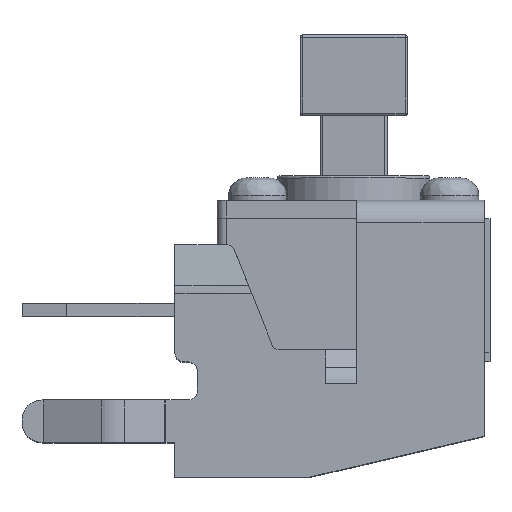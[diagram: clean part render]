
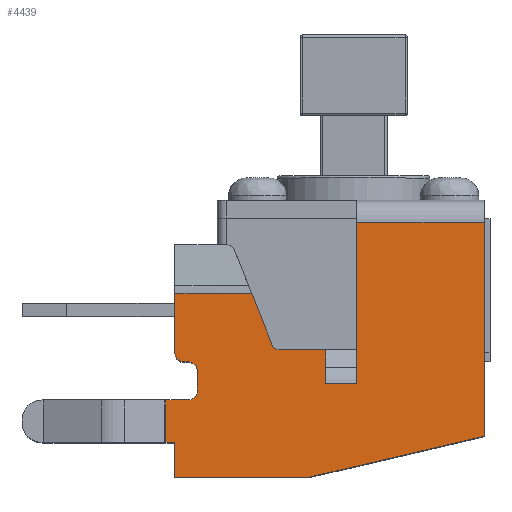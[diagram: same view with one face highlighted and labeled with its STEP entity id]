
A CAD part, top view. The second image highlights one B-rep face of the part: STEP entity #4439.
In plain terms, the highlighted planar face has unit normal (0, 0, 1).
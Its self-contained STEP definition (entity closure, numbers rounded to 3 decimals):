
#61=DIRECTION('',(-1.,0.,0.));
#62=VECTOR('',#61,2.85);
#63=CARTESIAN_POINT('',(2.92,3.1,3.75));
#64=LINE('',#63,#62);
#103=DIRECTION('',(0.,1.,0.));
#104=VECTOR('',#103,4.78);
#105=CARTESIAN_POINT('',(2.92,-1.68,3.75));
#106=LINE('',#105,#104);
#320=DIRECTION('',(0.,-1.,0.));
#321=VECTOR('',#320,3.6);
#322=CARTESIAN_POINT('',(0.07,3.1,3.75));
#323=LINE('',#322,#321);
#341=DIRECTION('',(-1.,0.,0.));
#342=VECTOR('',#341,0.7);
#343=CARTESIAN_POINT('',(0.07,-0.5,3.75));
#344=LINE('',#343,#342);
#349=DIRECTION('',(-0.974,-0.228,0.));
#350=VECTOR('',#349,4.027);
#351=CARTESIAN_POINT('',(2.92,-1.68,3.75));
#352=LINE('',#351,#350);
#353=DIRECTION('',(1.,0.,0.));
#354=VECTOR('',#353,0.5);
#355=CARTESIAN_POINT('',(-4.2,-0.87,3.75));
#356=LINE('',#355,#354);
#357=CARTESIAN_POINT('',(-3.7,-0.67,3.75));
#358=DIRECTION('',(0.,0.,1.));
#359=DIRECTION('',(0.,-1.,0.));
#360=AXIS2_PLACEMENT_3D('',#357,#358,#359);
#362=DIRECTION('',(0.,1.,0.));
#363=VECTOR('',#362,0.45);
#364=CARTESIAN_POINT('',(-3.5,-0.67,3.75));
#365=LINE('',#364,#363);
#366=CARTESIAN_POINT('',(-3.7,-0.22,3.75));
#367=DIRECTION('',(0.,0.,1.));
#368=DIRECTION('',(1.,0.,0.));
#369=AXIS2_PLACEMENT_3D('',#366,#367,#368);
#371=DIRECTION('',(-1.,0.,0.));
#372=VECTOR('',#371,0.1);
#373=CARTESIAN_POINT('',(-3.7,-0.02,3.75));
#374=LINE('',#373,#372);
#375=CARTESIAN_POINT('',(-3.8,0.18,3.75));
#376=DIRECTION('',(0.,0.,-1.));
#377=DIRECTION('',(0.,-1.,0.));
#378=AXIS2_PLACEMENT_3D('',#375,#376,#377);
#380=DIRECTION('',(0.371,-0.929,0.));
#381=VECTOR('',#380,1.239);
#382=CARTESIAN_POINT('',(-2.279,1.507,3.75));
#383=LINE('',#382,#381);
#384=CARTESIAN_POINT('',(-1.662,0.42,3.75));
#385=DIRECTION('',(0.,0.,1.));
#386=DIRECTION('',(-0.929,-0.371,0.));
#387=AXIS2_PLACEMENT_3D('',#384,#385,#386);
#398=DIRECTION('',(0.,1.,0.));
#399=VECTOR('',#398,0.75);
#400=CARTESIAN_POINT('',(-0.63,-0.5,3.75));
#401=LINE('',#400,#399);
#406=DIRECTION('',(-1.,0.,0.));
#407=VECTOR('',#406,1.032);
#408=CARTESIAN_POINT('',(-0.63,0.25,3.75));
#409=LINE('',#408,#407);
#463=DIRECTION('',(-1.,0.,0.));
#464=VECTOR('',#463,1.721);
#465=CARTESIAN_POINT('',(-2.279,1.507,3.75));
#466=LINE('',#465,#464);
#497=DIRECTION('',(0.,-1.,0.));
#498=VECTOR('',#497,1.327);
#499=CARTESIAN_POINT('',(-4.,1.507,3.75));
#500=LINE('',#499,#498);
#732=DIRECTION('',(0.,-1.,0.));
#733=VECTOR('',#732,0.95);
#734=CARTESIAN_POINT('',(-4.2,-0.87,3.75));
#735=LINE('',#734,#733);
#763=DIRECTION('',(1.,0.,0.));
#764=VECTOR('',#763,0.2);
#765=CARTESIAN_POINT('',(-4.2,-1.82,3.75));
#766=LINE('',#765,#764);
#860=DIRECTION('',(0.,-1.,0.));
#861=VECTOR('',#860,0.78);
#862=CARTESIAN_POINT('',(-4.,-1.82,3.75));
#863=LINE('',#862,#861);
#868=DIRECTION('',(1.,0.,0.));
#869=VECTOR('',#868,3.);
#870=CARTESIAN_POINT('',(-4.,-2.6,3.75));
#871=LINE('',#870,#869);
#3324=CARTESIAN_POINT('',(-3.7,-0.87,3.75));
#3326=VERTEX_POINT('',#3324);
#3328=CARTESIAN_POINT('',(-4.2,-0.87,3.75));
#3330=VERTEX_POINT('',#3328);
#3340=CARTESIAN_POINT('',(-3.5,-0.22,3.75));
#3342=VERTEX_POINT('',#3340);
#3345=CARTESIAN_POINT('',(-3.5,-0.67,3.75));
#3347=VERTEX_POINT('',#3345);
#3348=CARTESIAN_POINT('',(-3.7,-0.02,3.75));
#3349=VERTEX_POINT('',#3348);
#3352=CARTESIAN_POINT('',(-3.8,-0.02,3.75));
#3354=VERTEX_POINT('',#3352);
#3356=CARTESIAN_POINT('',(-0.63,-0.5,3.75));
#3357=CARTESIAN_POINT('',(-0.63,0.25,3.75));
#3358=VERTEX_POINT('',#3356);
#3359=VERTEX_POINT('',#3357);
#3360=CARTESIAN_POINT('',(0.07,-0.5,3.75));
#3361=VERTEX_POINT('',#3360);
#3362=CARTESIAN_POINT('',(2.92,3.1,3.75));
#3363=CARTESIAN_POINT('',(0.07,3.1,3.75));
#3364=VERTEX_POINT('',#3362);
#3365=VERTEX_POINT('',#3363);
#3366=CARTESIAN_POINT('',(2.92,-1.68,3.75));
#3367=CARTESIAN_POINT('',(-1.,-2.6,3.75));
#3368=VERTEX_POINT('',#3366);
#3369=VERTEX_POINT('',#3367);
#3370=CARTESIAN_POINT('',(-4.,-2.6,3.75));
#3371=VERTEX_POINT('',#3370);
#3372=CARTESIAN_POINT('',(-4.,-1.82,3.75));
#3373=VERTEX_POINT('',#3372);
#3374=CARTESIAN_POINT('',(-4.2,-1.82,3.75));
#3375=VERTEX_POINT('',#3374);
#3376=CARTESIAN_POINT('',(-4.,0.18,3.75));
#3377=VERTEX_POINT('',#3376);
#3378=CARTESIAN_POINT('',(-4.,1.507,3.75));
#3379=VERTEX_POINT('',#3378);
#3380=CARTESIAN_POINT('',(-1.82,0.357,3.75));
#3381=CARTESIAN_POINT('',(-1.662,0.25,3.75));
#3382=VERTEX_POINT('',#3380);
#3383=VERTEX_POINT('',#3381);
#3436=CARTESIAN_POINT('',(-2.279,1.507,3.75));
#3437=VERTEX_POINT('',#3436);
#4394=CARTESIAN_POINT('',(-0.64,0.25,3.75));
#4395=DIRECTION('',(0.,0.,1.));
#4396=DIRECTION('',(1.,0.,0.));
#4397=AXIS2_PLACEMENT_3D('',#4394,#4395,#4396);
#4398=PLANE('',#4397);
#4400=ORIENTED_EDGE('',*,*,#4399,.F.);
#4401=ORIENTED_EDGE('',*,*,#4387,.F.);
#4402=ORIENTED_EDGE('',*,*,#4338,.F.);
#4403=ORIENTED_EDGE('',*,*,#4016,.F.);
#4404=ORIENTED_EDGE('',*,*,#4045,.F.);
#4406=ORIENTED_EDGE('',*,*,#4405,.T.);
#4408=ORIENTED_EDGE('',*,*,#4407,.F.);
#4410=ORIENTED_EDGE('',*,*,#4409,.F.);
#4412=ORIENTED_EDGE('',*,*,#4411,.F.);
#4414=ORIENTED_EDGE('',*,*,#4413,.F.);
#4416=ORIENTED_EDGE('',*,*,#4415,.T.);
#4418=ORIENTED_EDGE('',*,*,#4417,.T.);
#4420=ORIENTED_EDGE('',*,*,#4419,.T.);
#4422=ORIENTED_EDGE('',*,*,#4421,.T.);
#4424=ORIENTED_EDGE('',*,*,#4423,.T.);
#4426=ORIENTED_EDGE('',*,*,#4425,.T.);
#4428=ORIENTED_EDGE('',*,*,#4427,.F.);
#4430=ORIENTED_EDGE('',*,*,#4429,.F.);
#4432=ORIENTED_EDGE('',*,*,#4431,.T.);
#4434=ORIENTED_EDGE('',*,*,#4433,.T.);
#4436=ORIENTED_EDGE('',*,*,#4435,.F.);
#4437=EDGE_LOOP('',(#4400,#4401,#4402,#4403,#4404,#4406,#4408,#4410,#4412,#4414,
#4416,#4418,#4420,#4422,#4424,#4426,#4428,#4430,#4432,#4434,#4436));
#4438=FACE_OUTER_BOUND('',#4437,.F.);
#361=CIRCLE('',#360,0.2);
#370=CIRCLE('',#369,0.2);
#379=CIRCLE('',#378,0.2);
#388=CIRCLE('',#387,0.17);
#4016=EDGE_CURVE('',#3364,#3365,#64,.T.);
#4045=EDGE_CURVE('',#3368,#3364,#106,.T.);
#4338=EDGE_CURVE('',#3365,#3361,#323,.T.);
#4387=EDGE_CURVE('',#3361,#3358,#344,.T.);
#4399=EDGE_CURVE('',#3358,#3359,#401,.T.);
#4405=EDGE_CURVE('',#3368,#3369,#352,.T.);
#4407=EDGE_CURVE('',#3371,#3369,#871,.T.);
#4409=EDGE_CURVE('',#3373,#3371,#863,.T.);
#4411=EDGE_CURVE('',#3375,#3373,#766,.T.);
#4413=EDGE_CURVE('',#3330,#3375,#735,.T.);
#4415=EDGE_CURVE('',#3330,#3326,#356,.T.);
#4417=EDGE_CURVE('',#3326,#3347,#361,.T.);
#4419=EDGE_CURVE('',#3347,#3342,#365,.T.);
#4421=EDGE_CURVE('',#3342,#3349,#370,.T.);
#4423=EDGE_CURVE('',#3349,#3354,#374,.T.);
#4425=EDGE_CURVE('',#3354,#3377,#379,.T.);
#4427=EDGE_CURVE('',#3379,#3377,#500,.T.);
#4429=EDGE_CURVE('',#3437,#3379,#466,.T.);
#4431=EDGE_CURVE('',#3437,#3382,#383,.T.);
#4433=EDGE_CURVE('',#3382,#3383,#388,.T.);
#4435=EDGE_CURVE('',#3359,#3383,#409,.T.);
#4439=ADVANCED_FACE('',(#4438),#4398,.T.);
